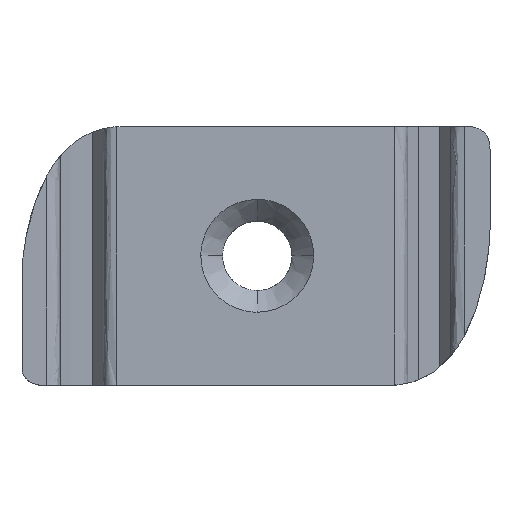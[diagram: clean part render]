
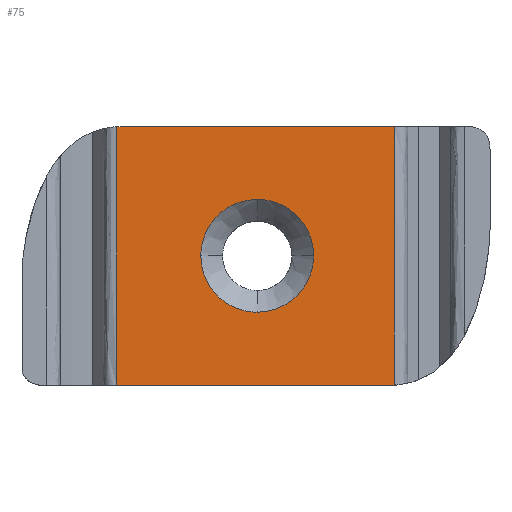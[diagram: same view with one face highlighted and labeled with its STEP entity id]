
A CAD part, top view. The second image highlights one B-rep face of the part: STEP entity #75.
In plain terms, the highlighted planar face has unit normal (0, 0, 1).
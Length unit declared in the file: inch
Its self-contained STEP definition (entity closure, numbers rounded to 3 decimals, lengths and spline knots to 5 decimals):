
#75=ADVANCED_FACE('',(#169,#170),#171,.T.);
#169=FACE_OUTER_BOUND('',#369,.T.);
#170=FACE_BOUND('',#370,.T.);
#171=PLANE('',#371);
#369=EDGE_LOOP('',(#801,#802,#803,#804,#805,#806));
#370=EDGE_LOOP('',(#807,#808,#809,#810));
#371=AXIS2_PLACEMENT_3D('',#811,#812,#813);
#801=ORIENTED_EDGE('',*,*,#1063,.F.);
#802=ORIENTED_EDGE('',*,*,#1064,.T.);
#803=ORIENTED_EDGE('',*,*,#1053,.T.);
#804=ORIENTED_EDGE('',*,*,#1065,.T.);
#805=ORIENTED_EDGE('',*,*,#1066,.T.);
#806=ORIENTED_EDGE('',*,*,#1067,.T.);
#807=ORIENTED_EDGE('',*,*,#1021,.F.);
#808=ORIENTED_EDGE('',*,*,#1068,.F.);
#809=ORIENTED_EDGE('',*,*,#1069,.F.);
#810=ORIENTED_EDGE('',*,*,#1070,.F.);
#811=CARTESIAN_POINT('',(0.668,0.11237,0.0));
#812=DIRECTION('',(0.0,0.0,1.0));
#813=DIRECTION('',(1.0,0.0,0.0));
#1021=EDGE_CURVE('',#1148,#1150,#1151,.T.);
#1053=EDGE_CURVE('',#1204,#1202,#1205,.T.);
#1063=EDGE_CURVE('',#1221,#1222,#1223,.T.);
#1064=EDGE_CURVE('',#1221,#1204,#1224,.T.);
#1065=EDGE_CURVE('',#1202,#1225,#1226,.T.);
#1066=EDGE_CURVE('',#1225,#1227,#1228,.T.);
#1067=EDGE_CURVE('',#1227,#1222,#1229,.T.);
#1068=EDGE_CURVE('',#1230,#1148,#1231,.T.);
#1069=EDGE_CURVE('',#1232,#1230,#1233,.T.);
#1070=EDGE_CURVE('',#1150,#1232,#1234,.T.);
#1148=VERTEX_POINT('',#1335);
#1150=VERTEX_POINT('',#1338);
#1151=B_SPLINE_CURVE_WITH_KNOTS('',3,(#1339,#1340,#1341,#1342,#1343,#1344,#1345,#1346,#1347,#1348,#1349,#1350,#1351,#1352),.UNSPECIFIED.,.F.,.F.,(4,2,2,2,2,2,4),(0.0,0.03394,0.06701,0.12778,0.13091,0.19308,0.25555),.UNSPECIFIED.);
#1202=VERTEX_POINT('',#1499);
#1204=VERTEX_POINT('',#1512);
#1205=B_SPLINE_CURVE_WITH_KNOTS('',3,(#1513,#1514,#1515,#1516),.UNSPECIFIED.,.F.,.F.,(4,4),(0.0,0.06858),.UNSPECIFIED.);
#1221=VERTEX_POINT('',#1547);
#1222=VERTEX_POINT('',#1548);
#1223=LINE('',#1549,#1550);
#1224=LINE('',#1551,#1552);
#1225=VERTEX_POINT('',#1553);
#1226=LINE('',#1554,#1555);
#1227=VERTEX_POINT('',#1556);
#1228=LINE('',#1557,#1558);
#1229=B_SPLINE_CURVE_WITH_KNOTS('',3,(#1559,#1560,#1561,#1562),.UNSPECIFIED.,.F.,.F.,(4,4),(0.0,0.06859),.UNSPECIFIED.);
#1230=VERTEX_POINT('',#1563);
#1231=B_SPLINE_CURVE_WITH_KNOTS('',3,(#1564,#1565,#1566,#1567,#1568,#1569,#1570,#1571,#1572,#1573,#1574,#1575,#1576,#1577),.UNSPECIFIED.,.F.,.F.,(4,2,2,2,2,2,4),(0.0,0.06248,0.12465,0.12762,0.18855,0.25304,0.25524),.UNSPECIFIED.);
#1232=VERTEX_POINT('',#1578);
#1233=B_SPLINE_CURVE_WITH_KNOTS('',3,(#1579,#1580,#1581,#1582,#1583,#1584,#1585,#1586,#1587,#1588),.UNSPECIFIED.,.F.,.F.,(4,2,2,2,4),(0.0,0.06364,0.1276,0.19155,0.25519),.UNSPECIFIED.);
#1234=B_SPLINE_CURVE_WITH_KNOTS('',3,(#1589,#1590,#1591,#1592,#1593,#1594,#1595,#1596,#1597,#1598,#1599,#1600,#1601,#1602),.UNSPECIFIED.,.F.,.F.,(4,2,2,2,2,2,4),(0.0,0.0022,0.06669,0.12762,0.13059,0.19275,0.25524),.UNSPECIFIED.);
#1335=CARTESIAN_POINT('',(0.68166,0.21178,0.));
#1338=CARTESIAN_POINT('',(0.84517,0.37528,0.));
#1339=CARTESIAN_POINT('',(0.68166,0.21178,0.));
#1340=CARTESIAN_POINT('',(0.69298,0.21178,0.));
#1341=CARTESIAN_POINT('',(0.70435,0.21295,0.));
#1342=CARTESIAN_POINT('',(0.72621,0.21755,0.));
#1343=CARTESIAN_POINT('',(0.73682,0.22094,0.));
#1344=CARTESIAN_POINT('',(0.7655,0.23343,0.));
#1345=CARTESIAN_POINT('',(0.78283,0.24525,0.));
#1346=CARTESIAN_POINT('',(0.79793,0.26032,0.));
#1347=CARTESIAN_POINT('',(0.79866,0.26107,0.));
#1348=CARTESIAN_POINT('',(0.81377,0.27674,0.));
#1349=CARTESIAN_POINT('',(0.82548,0.29475,0.));
#1350=CARTESIAN_POINT('',(0.84107,0.33326,0.));
#1351=CARTESIAN_POINT('',(0.84517,0.35446,0.));
#1352=CARTESIAN_POINT('',(0.84517,0.37528,0.));
#1499=CARTESIAN_POINT('',(1.0793,0.00057,0.0));
#1512=CARTESIAN_POINT('',(1.06192,0.,0.0));
#1513=CARTESIAN_POINT('',(1.06192,0.,0.0));
#1514=CARTESIAN_POINT('',(1.08478,0.,0.0));
#1515=CARTESIAN_POINT('',(1.10735,0.00288,0.0));
#1516=CARTESIAN_POINT('',(1.1293,0.00928,0.0));
#1547=CARTESIAN_POINT('',(0.27409,0.,0.0));
#1548=CARTESIAN_POINT('',(0.27409,0.74953,0.0));
#1549=CARTESIAN_POINT('',(0.27409,0.11237,0.0));
#1550=VECTOR('',#1841,1.);
#1551=CARTESIAN_POINT('',(0.27409,0.,0.0));
#1552=VECTOR('',#1842,1.0);
#1553=CARTESIAN_POINT('',(1.0793,0.75,0.0));
#1554=CARTESIAN_POINT('',(1.0793,0.,0.0));
#1555=VECTOR('',#1843,1.);
#1556=CARTESIAN_POINT('',(0.28403,0.75,0.0));
#1557=CARTESIAN_POINT('',(0.27409,0.75,0.0));
#1558=VECTOR('',#1844,1.0);
#1559=CARTESIAN_POINT('',(0.29147,0.7501,0.0));
#1560=CARTESIAN_POINT('',(0.26861,0.7501,0.0));
#1561=CARTESIAN_POINT('',(0.24604,0.74723,0.0));
#1562=CARTESIAN_POINT('',(0.22409,0.74082,0.0));
#1563=CARTESIAN_POINT('',(0.51817,0.37528,0.));
#1564=CARTESIAN_POINT('',(0.51817,0.37528,0.));
#1565=CARTESIAN_POINT('',(0.51817,0.35446,0.));
#1566=CARTESIAN_POINT('',(0.52226,0.33325,0.));
#1567=CARTESIAN_POINT('',(0.53786,0.29474,0.));
#1568=CARTESIAN_POINT('',(0.54957,0.27673,0.));
#1569=CARTESIAN_POINT('',(0.56464,0.2611,0.));
#1570=CARTESIAN_POINT('',(0.56533,0.2604,0.));
#1571=CARTESIAN_POINT('',(0.58041,0.24531,0.));
#1572=CARTESIAN_POINT('',(0.59779,0.23345,0.));
#1573=CARTESIAN_POINT('',(0.63612,0.21676,0.));
#1574=CARTESIAN_POINT('',(0.65797,0.21208,0.));
#1575=CARTESIAN_POINT('',(0.6802,0.21179,0.));
#1576=CARTESIAN_POINT('',(0.68093,0.21178,0.));
#1577=CARTESIAN_POINT('',(0.68166,0.21178,0.));
#1578=CARTESIAN_POINT('',(0.68166,0.53878,0.));
#1579=CARTESIAN_POINT('',(0.68166,0.53878,0.));
#1580=CARTESIAN_POINT('',(0.66045,0.53878,0.));
#1581=CARTESIAN_POINT('',(0.63884,0.53452,0.));
#1582=CARTESIAN_POINT('',(0.59953,0.51828,0.));
#1583=CARTESIAN_POINT('',(0.58113,0.50597,0.));
#1584=CARTESIAN_POINT('',(0.55098,0.47582,0.));
#1585=CARTESIAN_POINT('',(0.53867,0.45742,0.));
#1586=CARTESIAN_POINT('',(0.52242,0.41811,0.));
#1587=CARTESIAN_POINT('',(0.51817,0.3965,0.));
#1588=CARTESIAN_POINT('',(0.51817,0.37528,0.));
#1589=CARTESIAN_POINT('',(0.84517,0.37528,0.));
#1590=CARTESIAN_POINT('',(0.84517,0.37602,0.));
#1591=CARTESIAN_POINT('',(0.84516,0.37675,0.));
#1592=CARTESIAN_POINT('',(0.84487,0.39898,0.));
#1593=CARTESIAN_POINT('',(0.84019,0.42083,0.));
#1594=CARTESIAN_POINT('',(0.8235,0.45916,0.));
#1595=CARTESIAN_POINT('',(0.81164,0.47654,0.));
#1596=CARTESIAN_POINT('',(0.79655,0.49162,0.));
#1597=CARTESIAN_POINT('',(0.79585,0.49231,0.));
#1598=CARTESIAN_POINT('',(0.78021,0.50738,0.));
#1599=CARTESIAN_POINT('',(0.76221,0.51909,0.));
#1600=CARTESIAN_POINT('',(0.7237,0.53468,0.));
#1601=CARTESIAN_POINT('',(0.70249,0.53878,0.));
#1602=CARTESIAN_POINT('',(0.68166,0.53878,0.));
#1841=DIRECTION('',(0.0,1.0,0.0));
#1842=DIRECTION('',(1.0,0.0,0.0));
#1843=DIRECTION('',(0.0,1.0,0.0));
#1844=DIRECTION('',(-1.0,-0.0,0.0));
